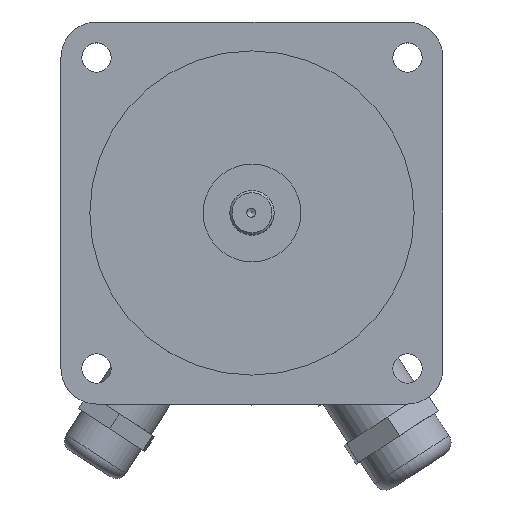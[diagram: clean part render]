
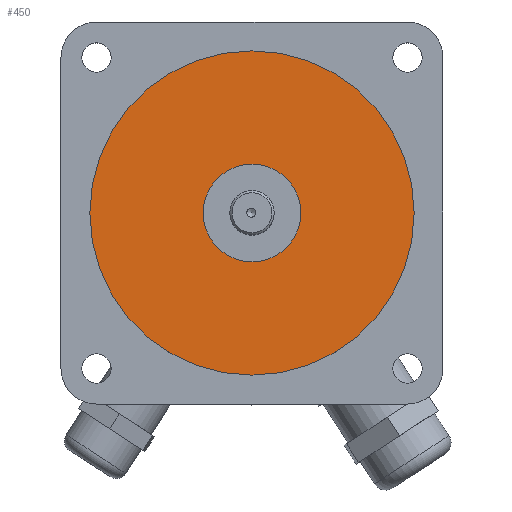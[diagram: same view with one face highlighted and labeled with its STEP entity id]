
A CAD part, top view. The second image highlights one B-rep face of the part: STEP entity #450.
In plain terms, the highlighted planar face has unit normal (0, 0, 1).
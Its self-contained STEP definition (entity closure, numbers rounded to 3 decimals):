
#379=CARTESIAN_POINT('',(-11.0,0.,54.5));
#380=VERTEX_POINT('',#379);
#381=CARTESIAN_POINT('',(0.0,0.0,54.5));
#382=DIRECTION('',(0.0,0.0,-1.0));
#383=DIRECTION('',(1.0,0.0,0.0));
#384=AXIS2_PLACEMENT_3D('',#381,#382,#383);
#385=CIRCLE('',#384,11.0);
#386=EDGE_CURVE('',#380,#380,#385,.T.);
#416=CARTESIAN_POINT('',(-36.5,0.,54.5));
#417=VERTEX_POINT('',#416);
#418=CARTESIAN_POINT('',(0.0,0.0,54.5));
#419=DIRECTION('',(0.0,0.0,-1.0));
#420=DIRECTION('',(1.0,0.0,0.0));
#421=AXIS2_PLACEMENT_3D('',#418,#419,#420);
#422=CIRCLE('',#421,36.5);
#423=EDGE_CURVE('',#417,#417,#422,.T.);
#439=CARTESIAN_POINT('',(0.0,0.0,54.5));
#440=DIRECTION('',(0.0,0.0,-1.0));
#441=DIRECTION('',(1.0,0.0,0.0));
#442=AXIS2_PLACEMENT_3D('',#439,#440,#441);
#443=PLANE('',#442);
#444=ORIENTED_EDGE('',*,*,#423,.F.);
#445=EDGE_LOOP('',(#444));
#446=FACE_OUTER_BOUND('',#445,.T.);
#447=ORIENTED_EDGE('',*,*,#386,.T.);
#448=EDGE_LOOP('',(#447));
#449=FACE_BOUND('',#448,.T.);
#450=ADVANCED_FACE('',(#446,#449),#443,.F.);
